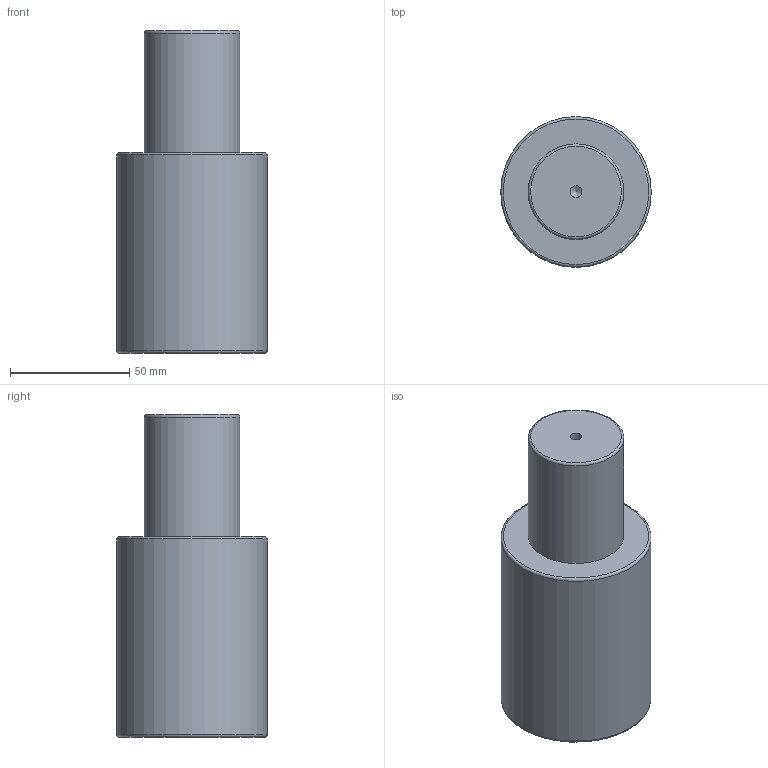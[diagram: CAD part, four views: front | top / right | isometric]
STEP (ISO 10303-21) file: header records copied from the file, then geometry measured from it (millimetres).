
FILE_DESCRIPTION(/* description */ (''),/* implementation_level */ '2;1');
FILE_NAME(/* name */ 'NV5-SMLX.63x50.stp',/* time_stamp */ '2018-08-31T16:08:31+02:00',/* author */ (''),/* organization */ (''),/* preprocessor_version */ 'ST-DEVELOPER v16',/* originating_system */ 'SIEMENS PLM Software NX 10.0',/* authorisation */ '');
FILE_SCHEMA (('AUTOMOTIVE_DESIGN { 1 0 10303 214 3 1 1 1 }'));
Length unit declared in the file: millimetre
Products named in the file (1): NV5-SMLX.63x50
Bounding box: 63 x 63 x 135 mm (x, y, z)
Volume: 324417.1 mm3; surface area: 29763.1 mm2
Topology: 1 solids, 1 shells, 12 faces, 24 edges, 15 vertices
Faces by surface type: cylinder 4, torus 3, plane 3, cone 2
Full cylindrical faces by diameter (mm): 5 x1, 8.5 x1, 40 x1, 63 x1
Entity records: 266 total; most frequent: DIRECTION 48, CARTESIAN_POINT 37, FACE_BOUND 24, AXIS2_PLACEMENT_3D 24, EDGE_LOOP 22, ORIENTED_EDGE 22, VERTEX_POINT 13, ADVANCED_FACE 12
